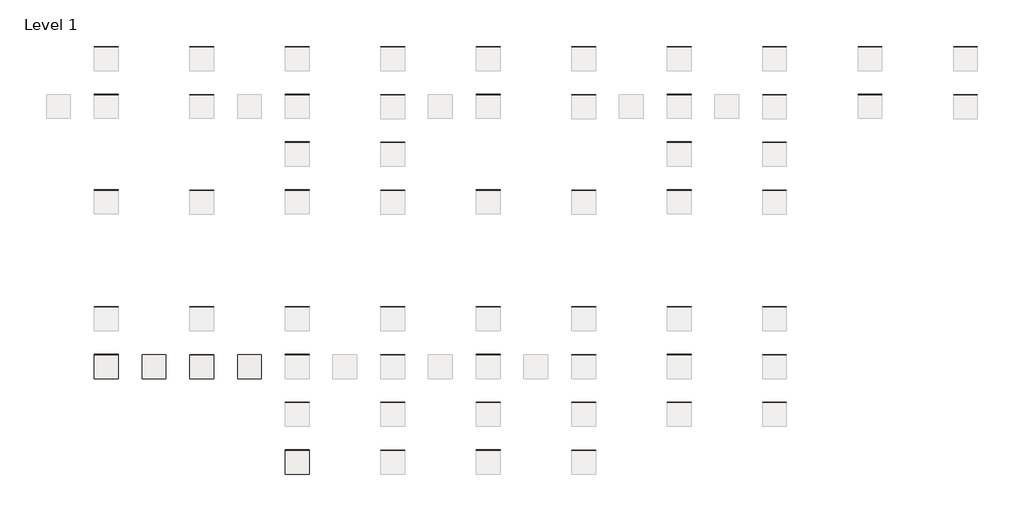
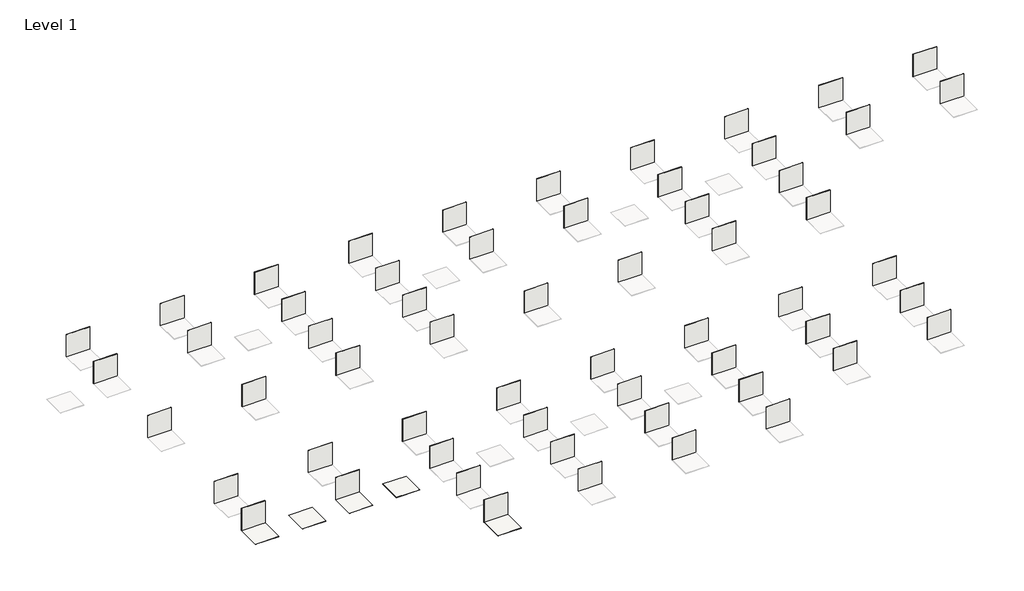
# One storey, part 1 of 2: 63 coverings.
"""IFC4 building model written with IfcOpenShell, lengths in millimetres."""

from ifc_helpers import new_model, si_unit, frame, origin, origin_with_axes, place, context, project, spatial, polyline, outline, extrude, element, save

model = new_model("IFC4")

# Units and contexts
model_context = context("Model", 3, world=origin())
ifc_project = project(units=[si_unit("LENGTHUNIT", "METRE", prefix="MILLI")], contexts=[model_context])

# Site, building, storey
site = spatial("IfcSite", under=ifc_project)
building = spatial("IfcBuilding", under=site)
storey = spatial("IfcBuildingStorey", under=building, Name="Level 1", Elevation=0.0)

# Coverings
placement = place(None, origin())
element("IfcCovering", 1, ObjectType="MARGRES-TIME 2.0-BASE-30X60-NR-BEIGE", at=placement, inside=storey, context=model_context, shape_type="SweptSolid", body=[
    extrude(outline(polyline([(5212.2694795, -3958.5049043), (4212.2694795, -3958.5049043), (4212.2694795, -3948.5049043), (5212.2694795, -3948.5049043), (5212.2694795, -3958.5049043)])), origin_with_axes(), (0.0, 0.0, 1.0), 1000.0),
])
element("IfcCovering", 2, ObjectType="MARGRES-TIME 2.0-BASE-30X60-P-BEIGE", at=placement, inside=storey, context=model_context, shape_type="SweptSolid", body=[
    extrude(outline(polyline([(9212.2694795, -3958.5049043), (8212.2694795, -3958.5049043), (8212.2694795, -3949.0049043), (9212.2694795, -3949.0049043), (9212.2694795, -3958.5049043)])), origin_with_axes(), (0.0, 0.0, 1.0), 1000.0),
])
element("IfcCovering", 3, ObjectType="MARGRES-TIME 2.0-BASE-60X60-NR-BEIGE", at=placement, inside=storey, context=model_context, shape_type="SweptSolid", body=[
    extrude(outline(polyline([(5212.2694795, -5958.5049043), (4212.2694795, -5958.5049043), (4212.2694795, -5948.5049043), (5212.2694795, -5948.5049043), (5212.2694795, -5958.5049043)])), origin_with_axes(), (0.0, 0.0, 1.0), 1000.0),
])
element("IfcCovering", 4, ObjectType="MARGRES-TIME 2.0-BASE-60X60-P-BEIGE", at=placement, inside=storey, context=model_context, shape_type="SweptSolid", body=[
    extrude(outline(polyline([(9212.2694795, -5968.0049043), (8212.2694795, -5968.0049043), (8212.2694795, -5958.5049043), (9212.2694795, -5958.5049043), (9212.2694795, -5968.0049043)])), origin_with_axes(), (0.0, 0.0, 1.0), 1000.0),
])
element("IfcCovering", 5, ObjectType="MARGRES-TIME 2.0-BASE-60X120-NR-BLACK", at=placement, inside=storey, context=model_context, shape_type="SweptSolid", body=[
    extrude(outline(polyline([(13212.2694795, -7958.5049043), (12212.2694795, -7958.5049043), (12212.2694795, -7947.5049043), (13212.2694795, -7947.5049043), (13212.2694795, -7958.5049043)])), origin_with_axes(), (0.0, 0.0, 1.0), 1000.0),
])
element("IfcCovering", 6, ObjectType="MARGRES-TIME 2.0-BASE-60X120-P-BLACK", at=placement, inside=storey, context=model_context, shape_type="SweptSolid", body=[
    extrude(outline(polyline([(17212.2694795, -7958.5049043), (16212.2694795, -7958.5049043), (16212.2694795, -7948.0049043), (17212.2694795, -7948.0049043), (17212.2694795, -7958.5049043)])), origin_with_axes(), (0.0, 0.0, 1.0), 1000.0),
])
element("IfcCovering", 7, ObjectType="MARGRES-TIME 2.0-BASE-90X90-NR-BEIGE", at=placement, inside=storey, context=model_context, shape_type="SweptSolid", body=[
    extrude(outline(polyline([(5212.2694795, -9958.5049043), (4212.2694795, -9958.5049043), (4212.2694795, -9947.5049043), (5212.2694795, -9947.5049043), (5212.2694795, -9958.5049043)])), origin_with_axes(), (0.0, 0.0, 1.0), 1000.0),
])
element("IfcCovering", 8, ObjectType="MARGRES-TIME 2.0-BASE-90X90-P-BEIGE", at=placement, inside=storey, context=model_context, shape_type="SweptSolid", body=[
    extrude(outline(polyline([(9212.2694795, -9969.0049043), (8212.2694795, -9969.0049043), (8212.2694795, -9958.5049043), (9212.2694795, -9958.5049043), (9212.2694795, -9969.0049043)])), origin_with_axes(), (0.0, 0.0, 1.0), 1000.0),
])
element("IfcCovering", 9, ObjectType="MARGRES-TIME 2.0-BASE-30X60-NR-BLACK", at=placement, inside=storey, context=model_context, shape_type="SweptSolid", body=[
    extrude(outline(polyline([(13212.2694795, -3958.5049043), (12212.2694795, -3958.5049043), (12212.2694795, -3948.5049043), (13212.2694795, -3948.5049043), (13212.2694795, -3958.5049043)])), origin_with_axes(), (0.0, 0.0, 1.0), 1000.0),
])
element("IfcCovering", 10, ObjectType="MARGRES-TIME 2.0-BASE-30X60-P-BLACK", at=placement, inside=storey, context=model_context, shape_type="SweptSolid", body=[
    extrude(outline(polyline([(17212.2694795, -3958.5049043), (16212.2694795, -3958.5049043), (16212.2694795, -3949.0049043), (17212.2694795, -3949.0049043), (17212.2694795, -3958.5049043)])), origin_with_axes(), (0.0, 0.0, 1.0), 1000.0),
])
element("IfcCovering", 11, ObjectType="MARGRES-TIME 2.0-BASE-60X60-NR-BLACK", at=placement, inside=storey, context=model_context, shape_type="SweptSolid", body=[
    extrude(outline(polyline([(13212.2694795, -5958.5049043), (12212.2694795, -5958.5049043), (12212.2694795, -5948.5049043), (13212.2694795, -5948.5049043), (13212.2694795, -5958.5049043)])), origin_with_axes(), (0.0, 0.0, 1.0), 1000.0),
])
element("IfcCovering", 12, ObjectType="MARGRES-TIME 2.0-BASE-60X60-P-BLACK", at=placement, inside=storey, context=model_context, shape_type="SweptSolid", body=[
    extrude(outline(polyline([(17212.2694795, -5968.0049043), (16212.2694795, -5968.0049043), (16212.2694795, -5958.5049043), (17212.2694795, -5958.5049043), (17212.2694795, -5968.0049043)])), origin_with_axes(), (0.0, 0.0, 1.0), 1000.0),
])
element("IfcCovering", 13, ObjectType="MARGRES-TIME 2.0-BASE-90X90-NR-BLACK", at=placement, inside=storey, context=model_context, shape_type="SweptSolid", body=[
    extrude(outline(polyline([(13212.2694795, -9958.5049043), (12212.2694795, -9958.5049043), (12212.2694795, -9947.5049043), (13212.2694795, -9947.5049043), (13212.2694795, -9958.5049043)])), origin_with_axes(), (0.0, 0.0, 1.0), 1000.0),
])
element("IfcCovering", 14, ObjectType="MARGRES-TIME 2.0-BASE-90X90-P-BLACK", at=placement, inside=storey, context=model_context, shape_type="SweptSolid", body=[
    extrude(outline(polyline([(17212.2694795, -9969.0049043), (16212.2694795, -9969.0049043), (16212.2694795, -9958.5049043), (17212.2694795, -9958.5049043), (17212.2694795, -9969.0049043)])), origin_with_axes(), (0.0, 0.0, 1.0), 1000.0),
])
element("IfcCovering", 15, ObjectType="MARGRES-TIME 2.0-BASE-60X120-NR-CREAM", at=placement, inside=storey, context=model_context, shape_type="SweptSolid", body=[
    extrude(outline(polyline([(29212.2694795, -7958.5049043), (28212.2694795, -7958.5049043), (28212.2694795, -7947.5049043), (29212.2694795, -7947.5049043), (29212.2694795, -7958.5049043)])), origin_with_axes(), (0.0, 0.0, 1.0), 1000.0),
])
element("IfcCovering", 16, ObjectType="MARGRES-TIME 2.0-BASE-60X120-P-CREAM", at=placement, inside=storey, context=model_context, shape_type="SweptSolid", body=[
    extrude(outline(polyline([(33212.2694795, -7958.5049043), (32212.2694795, -7958.5049043), (32212.2694795, -7948.0049043), (33212.2694795, -7948.0049043), (33212.2694795, -7958.5049043)])), origin_with_axes(), (0.0, 0.0, 1.0), 1000.0),
])
element("IfcCovering", 17, ObjectType="MARGRES-TIME 2.0-BASE-30X60-NR-CARBON", at=placement, inside=storey, context=model_context, shape_type="SweptSolid", body=[
    extrude(outline(polyline([(21212.2694795, -3958.5049043), (20212.2694795, -3958.5049043), (20212.2694795, -3948.5049043), (21212.2694795, -3948.5049043), (21212.2694795, -3958.5049043)])), origin_with_axes(), (0.0, 0.0, 1.0), 1000.0),
])
element("IfcCovering", 18, ObjectType="MARGRES-TIME 2.0-BASE-30X60-P-CARBON", at=placement, inside=storey, context=model_context, shape_type="SweptSolid", body=[
    extrude(outline(polyline([(25212.2694795, -3958.5049043), (24212.2694795, -3958.5049043), (24212.2694795, -3949.0049043), (25212.2694795, -3949.0049043), (25212.2694795, -3958.5049043)])), origin_with_axes(), (0.0, 0.0, 1.0), 1000.0),
])
element("IfcCovering", 19, ObjectType="MARGRES-TIME 2.0-BASE-60X60-NR-CARBON", at=placement, inside=storey, context=model_context, shape_type="SweptSolid", body=[
    extrude(outline(polyline([(21212.2694795, -5958.5049043), (20212.2694795, -5958.5049043), (20212.2694795, -5948.5049043), (21212.2694795, -5948.5049043), (21212.2694795, -5958.5049043)])), origin_with_axes(), (0.0, 0.0, 1.0), 1000.0),
])
element("IfcCovering", 20, ObjectType="MARGRES-TIME 2.0-BASE-60X60-P-CARBON", at=placement, inside=storey, context=model_context, shape_type="SweptSolid", body=[
    extrude(outline(polyline([(25212.2694795, -5968.0049043), (24212.2694795, -5968.0049043), (24212.2694795, -5958.5049043), (25212.2694795, -5958.5049043), (25212.2694795, -5968.0049043)])), origin_with_axes(), (0.0, 0.0, 1.0), 1000.0),
])
element("IfcCovering", 21, ObjectType="MARGRES-TIME 2.0-BASE-90X90-NR-CARBON", at=placement, inside=storey, context=model_context, shape_type="SweptSolid", body=[
    extrude(outline(polyline([(21212.2694795, -9958.5049043), (20212.2694795, -9958.5049043), (20212.2694795, -9947.5049043), (21212.2694795, -9947.5049043), (21212.2694795, -9958.5049043)])), origin_with_axes(), (0.0, 0.0, 1.0), 1000.0),
])
element("IfcCovering", 22, ObjectType="MARGRES-TIME 2.0-BASE-90X90-P-CARBON", at=placement, inside=storey, context=model_context, shape_type="SweptSolid", body=[
    extrude(outline(polyline([(25212.2694795, -9969.0049043), (24212.2694795, -9969.0049043), (24212.2694795, -9958.5049043), (25212.2694795, -9958.5049043), (25212.2694795, -9969.0049043)])), origin_with_axes(), (0.0, 0.0, 1.0), 1000.0),
])
element("IfcCovering", 23, ObjectType="MARGRES-TIME 2.0-BASE-30X60-NR-CREAM", at=placement, inside=storey, context=model_context, shape_type="SweptSolid", body=[
    extrude(outline(polyline([(29212.2694795, -3958.5049043), (28212.2694795, -3958.5049043), (28212.2694795, -3948.5049043), (29212.2694795, -3948.5049043), (29212.2694795, -3958.5049043)])), origin_with_axes(), (0.0, 0.0, 1.0), 1000.0),
])
element("IfcCovering", 24, ObjectType="MARGRES-TIME 2.0-BASE-30X60-P-CREAM", at=placement, inside=storey, context=model_context, shape_type="SweptSolid", body=[
    extrude(outline(polyline([(33212.2694795, -3958.5049043), (32212.2694795, -3958.5049043), (32212.2694795, -3949.0049043), (33212.2694795, -3949.0049043), (33212.2694795, -3958.5049043)])), origin_with_axes(), (0.0, 0.0, 1.0), 1000.0),
])
element("IfcCovering", 25, ObjectType="MARGRES-TIME 2.0-BASE-60X60-NR-CREAM", at=placement, inside=storey, context=model_context, shape_type="SweptSolid", body=[
    extrude(outline(polyline([(29212.2694795, -5958.5049043), (28212.2694795, -5958.5049043), (28212.2694795, -5948.5049043), (29212.2694795, -5948.5049043), (29212.2694795, -5958.5049043)])), origin_with_axes(), (0.0, 0.0, 1.0), 1000.0),
])
element("IfcCovering", 26, ObjectType="MARGRES-TIME 2.0-BASE-60X60-P-CREAM", at=placement, inside=storey, context=model_context, shape_type="SweptSolid", body=[
    extrude(outline(polyline([(33212.2694795, -5968.0049043), (32212.2694795, -5968.0049043), (32212.2694795, -5958.5049043), (33212.2694795, -5958.5049043), (33212.2694795, -5968.0049043)])), origin_with_axes(), (0.0, 0.0, 1.0), 1000.0),
])
element("IfcCovering", 27, ObjectType="MARGRES-TIME 2.0-BASE-90X90-NR-CREAM", at=placement, inside=storey, context=model_context, shape_type="SweptSolid", body=[
    extrude(outline(polyline([(29212.2694795, -9958.5049043), (28212.2694795, -9958.5049043), (28212.2694795, -9947.5049043), (29212.2694795, -9947.5049043), (29212.2694795, -9958.5049043)])), origin_with_axes(), (0.0, 0.0, 1.0), 1000.0),
])
element("IfcCovering", 28, ObjectType="MARGRES-TIME 2.0-BASE-90X90-P-CREAM", at=placement, inside=storey, context=model_context, shape_type="SweptSolid", body=[
    extrude(outline(polyline([(33212.2694795, -9969.0049043), (32212.2694795, -9969.0049043), (32212.2694795, -9958.5049043), (33212.2694795, -9958.5049043), (33212.2694795, -9969.0049043)])), origin_with_axes(), (0.0, 0.0, 1.0), 1000.0),
])
element("IfcCovering", 29, ObjectType="MARGRES-TIME 2.0-BASE-30X60-NR-DOVE", at=placement, inside=storey, context=model_context, shape_type="SweptSolid", body=[
    extrude(outline(polyline([(37212.2694795, -3958.5049043), (36212.2694795, -3958.5049043), (36212.2694795, -3948.5049043), (37212.2694795, -3948.5049043), (37212.2694795, -3958.5049043)])), origin_with_axes(), (0.0, 0.0, 1.0), 1000.0),
])
element("IfcCovering", 30, ObjectType="MARGRES-TIME 2.0-BASE-30X60-P-DOVE", at=placement, inside=storey, context=model_context, shape_type="SweptSolid", body=[
    extrude(outline(polyline([(41212.2694795, -3958.5049043), (40212.2694795, -3958.5049043), (40212.2694795, -3949.0049043), (41212.2694795, -3949.0049043), (41212.2694795, -3958.5049043)])), origin_with_axes(), (0.0, 0.0, 1.0), 1000.0),
])
element("IfcCovering", 31, ObjectType="MARGRES-TIME 2.0-BASE-60X60-NR-DOVE", at=placement, inside=storey, context=model_context, shape_type="SweptSolid", body=[
    extrude(outline(polyline([(37212.2694795, -5958.5049043), (36212.2694795, -5958.5049043), (36212.2694795, -5948.5049043), (37212.2694795, -5948.5049043), (37212.2694795, -5958.5049043)])), origin_with_axes(), (0.0, 0.0, 1.0), 1000.0),
])
element("IfcCovering", 32, ObjectType="MARGRES-TIME 2.0-BASE-60X60-P-DOVE", at=placement, inside=storey, context=model_context, shape_type="SweptSolid", body=[
    extrude(outline(polyline([(41212.2694795, -5968.0049043), (40212.2694795, -5968.0049043), (40212.2694795, -5958.5049043), (41212.2694795, -5958.5049043), (41212.2694795, -5968.0049043)])), origin_with_axes(), (0.0, 0.0, 1.0), 1000.0),
])
element("IfcCovering", 33, ObjectType="MARGRES-TIME 2.0-BASE-60X60-E NR-GREY", at=placement, inside=storey, context=model_context, shape_type="SweptSolid", body=[
    extrude(outline(polyline([(7212.2694795, -16858.5049043), (7212.2694795, -17858.5049043), (6212.2694795, -17858.5049043), (6212.2694795, -16858.5049043), (7212.2694795, -16858.5049043)])), frame((0.0, 0.0, -14.0), z_axis=(0.0, 0.0, 1.0), x_axis=(1.0, 0.0, 0.0)), (0.0, 0.0, 1.0), 14.0),
])
element("IfcCovering", 34, ObjectType="MARGRES-TIME 2.0-BASE-60X120-NR-SILVER", at=placement, inside=storey, context=model_context, shape_type="SweptSolid", body=[
    extrude(outline(polyline([(13212.2694795, -18858.5049043), (12212.2694795, -18858.5049043), (12212.2694795, -18847.5049043), (13212.2694795, -18847.5049043), (13212.2694795, -18858.5049043)])), origin_with_axes(), (0.0, 0.0, 1.0), 1000.0),
])
element("IfcCovering", 35, ObjectType="MARGRES-TIME 2.0-BASE-60X120-P-SILVER", at=placement, inside=storey, context=model_context, shape_type="SweptSolid", body=[
    extrude(outline(polyline([(17212.2694795, -18858.5049043), (16212.2694795, -18858.5049043), (16212.2694795, -18848.0049043), (17212.2694795, -18848.0049043), (17212.2694795, -18858.5049043)])), origin_with_axes(), (0.0, 0.0, 1.0), 1000.0),
])
element("IfcCovering", 36, ObjectType="MARGRES-TIME 2.0-BASE-30X60-NR-GREY", at=placement, inside=storey, context=model_context, shape_type="SweptSolid", body=[
    extrude(outline(polyline([(5212.2694795, -14858.5049043), (4212.2694795, -14858.5049043), (4212.2694795, -14848.5049043), (5212.2694795, -14848.5049043), (5212.2694795, -14858.5049043)])), origin_with_axes(), (0.0, 0.0, 1.0), 1000.0),
])
element("IfcCovering", 37, ObjectType="MARGRES-TIME 2.0-BASE-30X60-P-GREY", at=placement, inside=storey, context=model_context, shape_type="SweptSolid", body=[
    extrude(outline(polyline([(9212.2694795, -14858.5049043), (8212.2694795, -14858.5049043), (8212.2694795, -14849.0049043), (9212.2694795, -14849.0049043), (9212.2694795, -14858.5049043)])), origin_with_axes(), (0.0, 0.0, 1.0), 1000.0),
])
element("IfcCovering", 38, ObjectType="MARGRES-TIME 2.0-BASE-60X60-NR-GREY", at=placement, inside=storey, context=model_context, shape_type="SweptSolid", body=[
    extrude(outline(polyline([(5212.2694795, -16858.5049043), (5212.2694795, -17858.5049043), (4212.2694795, -17858.5049043), (4212.2694795, -16858.5049043), (5212.2694795, -16858.5049043)])), frame((0.0, 0.0, -10.0), z_axis=(0.0, 0.0, 1.0), x_axis=(1.0, 0.0, 0.0)), (0.0, 0.0, 1.0), 10.0),
])
element("IfcCovering", 39, ObjectType="MARGRES-TIME 2.0-BASE-60X60-NR-GREY", at=placement, inside=storey, context=model_context, shape_type="SweptSolid", body=[
    extrude(outline(polyline([(5212.2694795, -16858.5049043), (4212.2694795, -16858.5049043), (4212.2694795, -16848.5049043), (5212.2694795, -16848.5049043), (5212.2694795, -16858.5049043)])), origin_with_axes(), (0.0, 0.0, 1.0), 1000.0),
])
element("IfcCovering", 40, ObjectType="MARGRES-TIME 2.0-BASE-60X60-P-GREY", at=placement, inside=storey, context=model_context, shape_type="SweptSolid", body=[
    extrude(outline(polyline([(9212.2694795, -16868.0049043), (9212.2694795, -17868.5049043), (8212.2694795, -17868.5049043), (8212.2694795, -16868.0049043), (9212.2694795, -16868.0049043)])), frame((0.0, 0.0, -9.5), z_axis=(0.0, 0.0, 1.0), x_axis=(1.0, 0.0, 0.0)), (0.0, 0.0, 1.0), 9.5),
])
element("IfcCovering", 41, ObjectType="MARGRES-TIME 2.0-BASE-60X60-P-GREY", at=placement, inside=storey, context=model_context, shape_type="SweptSolid", body=[
    extrude(outline(polyline([(9212.2694795, -16868.0049043), (8212.2694795, -16868.0049043), (8212.2694795, -16858.5049043), (9212.2694795, -16858.5049043), (9212.2694795, -16868.0049043)])), origin_with_axes(), (0.0, 0.0, 1.0), 1000.0),
])
element("IfcCovering", 42, ObjectType="MARGRES-TIME 2.0-BASE-90X90-NR-SILVER", at=placement, inside=storey, context=model_context, shape_type="SweptSolid", body=[
    extrude(outline(polyline([(13212.2694795, -20858.5049043), (13212.2694795, -21858.5049043), (12212.2694795, -21858.5049043), (12212.2694795, -20858.5049043), (13212.2694795, -20858.5049043)])), frame((0.0, 0.0, -11.0), z_axis=(0.0, 0.0, 1.0), x_axis=(1.0, 0.0, 0.0)), (0.0, 0.0, 1.0), 11.0),
])
element("IfcCovering", 43, ObjectType="MARGRES-TIME 2.0-BASE-90X90-NR-SILVER", at=placement, inside=storey, context=model_context, shape_type="SweptSolid", body=[
    extrude(outline(polyline([(13212.2694795, -20858.5049043), (12212.2694795, -20858.5049043), (12212.2694795, -20847.5049043), (13212.2694795, -20847.5049043), (13212.2694795, -20858.5049043)])), origin_with_axes(), (0.0, 0.0, 1.0), 1000.0),
])
element("IfcCovering", 44, ObjectType="MARGRES-TIME 2.0-BASE-90X90-P-SILVER", at=placement, inside=storey, context=model_context, shape_type="SweptSolid", body=[
    extrude(outline(polyline([(17212.2694795, -20869.0049043), (16212.2694795, -20869.0049043), (16212.2694795, -20858.5049043), (17212.2694795, -20858.5049043), (17212.2694795, -20869.0049043)])), origin_with_axes(), (0.0, 0.0, 1.0), 1000.0),
])
element("IfcCovering", 45, ObjectType="MARGRES-TIME 2.0-BASE-30X60-NR-SILVER", at=placement, inside=storey, context=model_context, shape_type="SweptSolid", body=[
    extrude(outline(polyline([(13212.2694795, -14858.5049043), (12212.2694795, -14858.5049043), (12212.2694795, -14848.5049043), (13212.2694795, -14848.5049043), (13212.2694795, -14858.5049043)])), origin_with_axes(), (0.0, 0.0, 1.0), 1000.0),
])
element("IfcCovering", 46, ObjectType="MARGRES-TIME 2.0-BASE-30X60-P-SILVER", at=placement, inside=storey, context=model_context, shape_type="SweptSolid", body=[
    extrude(outline(polyline([(17212.2694795, -14858.5049043), (16212.2694795, -14858.5049043), (16212.2694795, -14849.0049043), (17212.2694795, -14849.0049043), (17212.2694795, -14858.5049043)])), origin_with_axes(), (0.0, 0.0, 1.0), 1000.0),
])
element("IfcCovering", 47, ObjectType="MARGRES-TIME 2.0-BASE-60X60-NR-SILVER", at=placement, inside=storey, context=model_context, shape_type="SweptSolid", body=[
    extrude(outline(polyline([(13212.2694795, -16858.5049043), (12212.2694795, -16858.5049043), (12212.2694795, -16848.5049043), (13212.2694795, -16848.5049043), (13212.2694795, -16858.5049043)])), origin_with_axes(), (0.0, 0.0, 1.0), 1000.0),
])
element("IfcCovering", 48, ObjectType="MARGRES-TIME 2.0-BASE-60X60-P-SILVER", at=placement, inside=storey, context=model_context, shape_type="SweptSolid", body=[
    extrude(outline(polyline([(17212.2694795, -16868.0049043), (16212.2694795, -16868.0049043), (16212.2694795, -16858.5049043), (17212.2694795, -16858.5049043), (17212.2694795, -16868.0049043)])), origin_with_axes(), (0.0, 0.0, 1.0), 1000.0),
])
element("IfcCovering", 49, ObjectType="MARGRES-TIME 2.0-BASE-60X120-NR-SNOW", at=placement, inside=storey, context=model_context, shape_type="SweptSolid", body=[
    extrude(outline(polyline([(21212.2694795, -18858.5049043), (20212.2694795, -18858.5049043), (20212.2694795, -18847.5049043), (21212.2694795, -18847.5049043), (21212.2694795, -18858.5049043)])), origin_with_axes(), (0.0, 0.0, 1.0), 1000.0),
])
element("IfcCovering", 50, ObjectType="MARGRES-TIME 2.0-BASE-60X120-P-SNOW", at=placement, inside=storey, context=model_context, shape_type="SweptSolid", body=[
    extrude(outline(polyline([(25212.2694795, -18858.5049043), (24212.2694795, -18858.5049043), (24212.2694795, -18848.0049043), (25212.2694795, -18848.0049043), (25212.2694795, -18858.5049043)])), origin_with_axes(), (0.0, 0.0, 1.0), 1000.0),
])
element("IfcCovering", 51, ObjectType="MARGRES-TIME 2.0-BASE-90X90-NR-SNOW", at=placement, inside=storey, context=model_context, shape_type="SweptSolid", body=[
    extrude(outline(polyline([(21212.2694795, -20858.5049043), (20212.2694795, -20858.5049043), (20212.2694795, -20847.5049043), (21212.2694795, -20847.5049043), (21212.2694795, -20858.5049043)])), origin_with_axes(), (0.0, 0.0, 1.0), 1000.0),
])
element("IfcCovering", 52, ObjectType="MARGRES-TIME 2.0-BASE-90X90-P-SNOW", at=placement, inside=storey, context=model_context, shape_type="SweptSolid", body=[
    extrude(outline(polyline([(25212.2694795, -20869.0049043), (24212.2694795, -20869.0049043), (24212.2694795, -20858.5049043), (25212.2694795, -20858.5049043), (25212.2694795, -20869.0049043)])), origin_with_axes(), (0.0, 0.0, 1.0), 1000.0),
])
element("IfcCovering", 53, ObjectType="MARGRES-TIME 2.0-BASE-30X60-NR-SNOW", at=placement, inside=storey, context=model_context, shape_type="SweptSolid", body=[
    extrude(outline(polyline([(21212.2694795, -14858.5049043), (20212.2694795, -14858.5049043), (20212.2694795, -14848.5049043), (21212.2694795, -14848.5049043), (21212.2694795, -14858.5049043)])), origin_with_axes(), (0.0, 0.0, 1.0), 1000.0),
])
element("IfcCovering", 54, ObjectType="MARGRES-TIME 2.0-BASE-30X60-P-SNOW", at=placement, inside=storey, context=model_context, shape_type="SweptSolid", body=[
    extrude(outline(polyline([(25212.2694795, -14858.5049043), (24212.2694795, -14858.5049043), (24212.2694795, -14849.0049043), (25212.2694795, -14849.0049043), (25212.2694795, -14858.5049043)])), origin_with_axes(), (0.0, 0.0, 1.0), 1000.0),
])
element("IfcCovering", 55, ObjectType="MARGRES-TIME 2.0-BASE-60X60-NR-SNOW", at=placement, inside=storey, context=model_context, shape_type="SweptSolid", body=[
    extrude(outline(polyline([(21212.2694795, -16858.5049043), (20212.2694795, -16858.5049043), (20212.2694795, -16848.5049043), (21212.2694795, -16848.5049043), (21212.2694795, -16858.5049043)])), origin_with_axes(), (0.0, 0.0, 1.0), 1000.0),
])
element("IfcCovering", 56, ObjectType="MARGRES-TIME 2.0-BASE-60X60-P-SNOW", at=placement, inside=storey, context=model_context, shape_type="SweptSolid", body=[
    extrude(outline(polyline([(25212.2694795, -16868.0049043), (24212.2694795, -16868.0049043), (24212.2694795, -16858.5049043), (25212.2694795, -16858.5049043), (25212.2694795, -16868.0049043)])), origin_with_axes(), (0.0, 0.0, 1.0), 1000.0),
])
element("IfcCovering", 57, ObjectType="MARGRES-TIME 2.0-BASE-60X120-NR-WHITE", at=placement, inside=storey, context=model_context, shape_type="SweptSolid", body=[
    extrude(outline(polyline([(29212.2694795, -18858.5049043), (28212.2694795, -18858.5049043), (28212.2694795, -18847.5049043), (29212.2694795, -18847.5049043), (29212.2694795, -18858.5049043)])), origin_with_axes(), (0.0, 0.0, 1.0), 1000.0),
])
element("IfcCovering", 58, ObjectType="MARGRES-TIME 2.0-BASE-60X120-P-WHITE", at=placement, inside=storey, context=model_context, shape_type="SweptSolid", body=[
    extrude(outline(polyline([(33212.2694795, -18858.5049043), (32212.2694795, -18858.5049043), (32212.2694795, -18848.0049043), (33212.2694795, -18848.0049043), (33212.2694795, -18858.5049043)])), origin_with_axes(), (0.0, 0.0, 1.0), 1000.0),
])
element("IfcCovering", 59, ObjectType="MARGRES-TIME 2.0-BASE-30X60-NR-WHITE", at=placement, inside=storey, context=model_context, shape_type="SweptSolid", body=[
    extrude(outline(polyline([(29212.2694795, -14858.5049043), (28212.2694795, -14858.5049043), (28212.2694795, -14848.5049043), (29212.2694795, -14848.5049043), (29212.2694795, -14858.5049043)])), origin_with_axes(), (0.0, 0.0, 1.0), 1000.0),
])
element("IfcCovering", 60, ObjectType="MARGRES-TIME 2.0-BASE-30X60-P-WHITE", at=placement, inside=storey, context=model_context, shape_type="SweptSolid", body=[
    extrude(outline(polyline([(33212.2694795, -14858.5049043), (32212.2694795, -14858.5049043), (32212.2694795, -14849.0049043), (33212.2694795, -14849.0049043), (33212.2694795, -14858.5049043)])), origin_with_axes(), (0.0, 0.0, 1.0), 1000.0),
])
element("IfcCovering", 61, ObjectType="MARGRES-TIME 2.0-BASE-60X60-NR-WHITE", at=placement, inside=storey, context=model_context, shape_type="SweptSolid", body=[
    extrude(outline(polyline([(29212.2694795, -16858.5049043), (28212.2694795, -16858.5049043), (28212.2694795, -16848.5049043), (29212.2694795, -16848.5049043), (29212.2694795, -16858.5049043)])), origin_with_axes(), (0.0, 0.0, 1.0), 1000.0),
])
element("IfcCovering", 62, ObjectType="MARGRES-TIME 2.0-BASE-60X60-P-WHITE", at=placement, inside=storey, context=model_context, shape_type="SweptSolid", body=[
    extrude(outline(polyline([(33212.2694795, -16868.0049043), (32212.2694795, -16868.0049043), (32212.2694795, -16858.5049043), (33212.2694795, -16858.5049043), (33212.2694795, -16868.0049043)])), origin_with_axes(), (0.0, 0.0, 1.0), 1000.0),
])
element("IfcCovering", 63, ObjectType="MARGRES-TIME 2.0-BASE-60X60-ASR-SILVER", at=placement, inside=storey, context=model_context, shape_type="SweptSolid", body=[
    extrude(outline(polyline([(11212.2694795, -16858.5049043), (11212.2694795, -17858.5049043), (10212.2694795, -17858.5049043), (10212.2694795, -16858.5049043), (11212.2694795, -16858.5049043)])), frame((0.0, 0.0, -10.0), z_axis=(0.0, 0.0, 1.0), x_axis=(1.0, 0.0, 0.0)), (0.0, 0.0, 1.0), 10.0),
])

save(model, "model.ifc")
